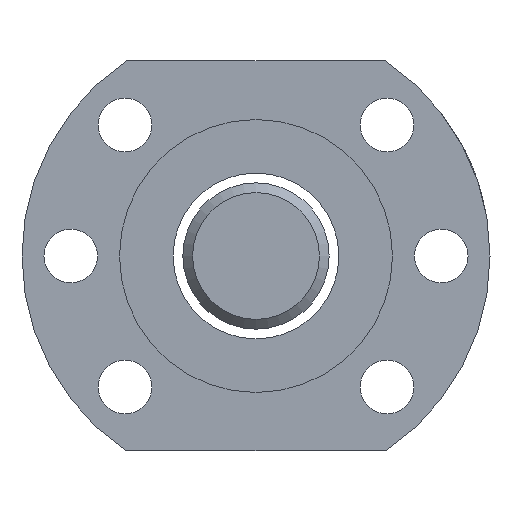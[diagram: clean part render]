
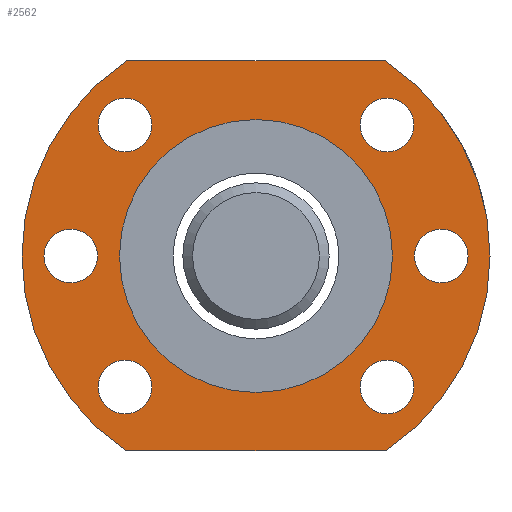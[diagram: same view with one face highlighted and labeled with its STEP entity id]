
A CAD part, left-side view. The second image highlights one B-rep face of the part: STEP entity #2562.
In plain terms, the highlighted planar face has unit normal (-1, 0, 0).
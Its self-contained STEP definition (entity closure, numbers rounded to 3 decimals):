
#82 = CARTESIAN_POINT ( 'NONE',  ( 0.351, -22.672, -20. ) ) ;
#187 = FACE_BOUND ( 'NONE', #550, .T. ) ;
#196 = VERTEX_POINT ( 'NONE', #82 ) ;
#199 = DIRECTION ( 'NONE',  ( 0., 0., 1. ) ) ;
#203 = CARTESIAN_POINT ( 'NONE',  ( 0.351, -22.503, -10.685 ) ) ;
#215 = FACE_BOUND ( 'NONE', #1554, .T. ) ;
#301 = DIRECTION ( 'NONE',  ( -1., 0., 0. ) ) ;
#313 = EDGE_CURVE ( 'NONE', #2195, #1804, #1992, .T. ) ;
#346 = EDGE_CURVE ( 'NONE', #196, #2195, #1480, .T. ) ;
#350 = EDGE_LOOP ( 'NONE', ( #1408 ) ) ;
#379 = EDGE_LOOP ( 'NONE', ( #1186 ) ) ;
#387 = AXIS2_PLACEMENT_3D ( 'NONE', #836, #1797, #1643 ) ;
#412 = CARTESIAN_POINT ( 'NONE',  ( 0.351, -49.373, -13.435 ) ) ;
#431 = AXIS2_PLACEMENT_3D ( 'NONE', #412, #1443, #1209 ) ;
#440 = DIRECTION ( 'NONE',  ( -1., 0., 0. ) ) ;
#464 = CARTESIAN_POINT ( 'NONE',  ( 0.351, -35.938, 0. ) ) ;
#474 = AXIS2_PLACEMENT_3D ( 'NONE', #1053, #478, #2065 ) ;
#478 = DIRECTION ( 'NONE',  ( -1., 0., 0. ) ) ;
#497 = CARTESIAN_POINT ( 'NONE',  ( 0.351, -49.205, 20. ) ) ;
#518 = DIRECTION ( 'NONE',  ( 0., 0., 1. ) ) ;
#525 = CARTESIAN_POINT ( 'NONE',  ( 0.351, -22.672, 20. ) ) ;
#550 = EDGE_LOOP ( 'NONE', ( #883 ) ) ;
#561 = VERTEX_POINT ( 'NONE', #525 ) ;
#566 = EDGE_LOOP ( 'NONE', ( #1972 ) ) ;
#606 = VECTOR ( 'NONE', #1632, 1000. ) ;
#608 = ORIENTED_EDGE ( 'NONE', *, *, #313, .T. ) ;
#614 = CARTESIAN_POINT ( 'NONE',  ( 0.351, -54.938, 2.75 ) ) ;
#623 = DIRECTION ( 'NONE',  ( 0., 0., 1. ) ) ;
#629 = ORIENTED_EDGE ( 'NONE', *, *, #346, .T. ) ;
#637 = VERTEX_POINT ( 'NONE', #1233 ) ;
#640 = DIRECTION ( 'NONE',  ( -1., 0., 0. ) ) ;
#643 = VECTOR ( 'NONE', #2325, 1000. ) ;
#717 = CARTESIAN_POINT ( 'NONE',  ( 0.351, -49.205, 20. ) ) ;
#755 = CARTESIAN_POINT ( 'NONE',  ( 0.351, -35.938, 0. ) ) ;
#758 = EDGE_CURVE ( 'NONE', #2019, #2019, #1103, .T. ) ;
#763 = ORIENTED_EDGE ( 'NONE', *, *, #2294, .T. ) ;
#765 = AXIS2_PLACEMENT_3D ( 'NONE', #2604, #2203, #199 ) ;
#786 = ORIENTED_EDGE ( 'NONE', *, *, #1302, .T. ) ;
#808 = FACE_BOUND ( 'NONE', #566, .T. ) ;
#826 = DIRECTION ( 'NONE',  ( 0., 0., -1. ) ) ;
#836 = CARTESIAN_POINT ( 'NONE',  ( 0.351, -54.938, 0. ) ) ;
#883 = ORIENTED_EDGE ( 'NONE', *, *, #2300, .F. ) ;
#927 = DIRECTION ( 'NONE',  ( 0., 0., 1. ) ) ;
#940 = AXIS2_PLACEMENT_3D ( 'NONE', #1441, #1427, #2228 ) ;
#977 = AXIS2_PLACEMENT_3D ( 'NONE', #755, #982, #2595 ) ;
#982 = DIRECTION ( 'NONE',  ( -1., 0., 0. ) ) ;
#1005 = PLANE ( 'NONE',  #2572 ) ;
#1019 = CARTESIAN_POINT ( 'NONE',  ( 0.351, -16.938, 2.75 ) ) ;
#1021 = CIRCLE ( 'NONE', #387, 2.75 ) ;
#1027 = AXIS2_PLACEMENT_3D ( 'NONE', #464, #640, #826 ) ;
#1053 = CARTESIAN_POINT ( 'NONE',  ( 0.351, -35.938, 0. ) ) ;
#1069 = EDGE_CURVE ( 'NONE', #637, #637, #1153, .T. ) ;
#1103 = CIRCLE ( 'NONE', #474, 14. ) ;
#1141 = CIRCLE ( 'NONE', #765, 2.75 ) ;
#1142 = EDGE_CURVE ( 'NONE', #2414, #2414, #2529, .T. ) ;
#1153 = CIRCLE ( 'NONE', #2154, 2.75 ) ;
#1161 = ORIENTED_EDGE ( 'NONE', *, *, #1142, .F. ) ;
#1186 = ORIENTED_EDGE ( 'NONE', *, *, #1069, .F. ) ;
#1209 = DIRECTION ( 'NONE',  ( 0., 0., 1. ) ) ;
#1220 = FACE_BOUND ( 'NONE', #1461, .T. ) ;
#1233 = CARTESIAN_POINT ( 'NONE',  ( 0.351, -22.503, 16.185 ) ) ;
#1302 = EDGE_CURVE ( 'NONE', #1822, #1822, #1141, .T. ) ;
#1313 = CARTESIAN_POINT ( 'NONE',  ( 0.351, -22.503, -13.435 ) ) ;
#1357 = ORIENTED_EDGE ( 'NONE', *, *, #2539, .T. ) ;
#1408 = ORIENTED_EDGE ( 'NONE', *, *, #2079, .T. ) ;
#1417 = VERTEX_POINT ( 'NONE', #203 ) ;
#1420 = EDGE_LOOP ( 'NONE', ( #786 ) ) ;
#1423 = EDGE_CURVE ( 'NONE', #561, #196, #2320, .T. ) ;
#1427 = DIRECTION ( 'NONE',  ( -1., 0., 0. ) ) ;
#1429 = FACE_BOUND ( 'NONE', #350, .T. ) ;
#1441 = CARTESIAN_POINT ( 'NONE',  ( 0.351, -16.938, 0. ) ) ;
#1443 = DIRECTION ( 'NONE',  ( 1., 0., 0. ) ) ;
#1461 = EDGE_LOOP ( 'NONE', ( #1161 ) ) ;
#1480 = LINE ( 'NONE', #2062, #606 ) ;
#1522 = LINE ( 'NONE', #717, #643 ) ;
#1554 = EDGE_LOOP ( 'NONE', ( #1357 ) ) ;
#1600 = FACE_BOUND ( 'NONE', #1420, .T. ) ;
#1629 = FACE_BOUND ( 'NONE', #379, .T. ) ;
#1632 = DIRECTION ( 'NONE',  ( 0., -1., 0. ) ) ;
#1643 = DIRECTION ( 'NONE',  ( 0., 0., 1. ) ) ;
#1692 = CIRCLE ( 'NONE', #431, 2.75 ) ;
#1736 = CIRCLE ( 'NONE', #2196, 2.75 ) ;
#1797 = DIRECTION ( 'NONE',  ( 1., 0., 0. ) ) ;
#1804 = VERTEX_POINT ( 'NONE', #497 ) ;
#1822 = VERTEX_POINT ( 'NONE', #2402 ) ;
#1824 = VERTEX_POINT ( 'NONE', #2219 ) ;
#1852 = CARTESIAN_POINT ( 'NONE',  ( 0.351, -49.205, -20. ) ) ;
#1929 = DIRECTION ( 'NONE',  ( -1., 0., 0. ) ) ;
#1972 = ORIENTED_EDGE ( 'NONE', *, *, #758, .F. ) ;
#1992 = CIRCLE ( 'NONE', #1027, 24. ) ;
#2000 = EDGE_LOOP ( 'NONE', ( #2264, #629, #608, #763 ) ) ;
#2007 = FACE_OUTER_BOUND ( 'NONE', #2000, .T. ) ;
#2019 = VERTEX_POINT ( 'NONE', #2217 ) ;
#2062 = CARTESIAN_POINT ( 'NONE',  ( 0.351, -22.672, -20. ) ) ;
#2065 = DIRECTION ( 'NONE',  ( 0., 0., -1. ) ) ;
#2079 = EDGE_CURVE ( 'NONE', #2232, #2232, #1021, .T. ) ;
#2154 = AXIS2_PLACEMENT_3D ( 'NONE', #2501, #1929, #927 ) ;
#2195 = VERTEX_POINT ( 'NONE', #1852 ) ;
#2196 = AXIS2_PLACEMENT_3D ( 'NONE', #1313, #301, #518 ) ;
#2203 = DIRECTION ( 'NONE',  ( 1., 0., 0. ) ) ;
#2217 = CARTESIAN_POINT ( 'NONE',  ( 0.351, -35.938, -14. ) ) ;
#2219 = CARTESIAN_POINT ( 'NONE',  ( 0.351, -49.373, -10.685 ) ) ;
#2228 = DIRECTION ( 'NONE',  ( 0., 0., 1. ) ) ;
#2232 = VERTEX_POINT ( 'NONE', #614 ) ;
#2264 = ORIENTED_EDGE ( 'NONE', *, *, #1423, .T. ) ;
#2294 = EDGE_CURVE ( 'NONE', #1804, #561, #1522, .T. ) ;
#2300 = EDGE_CURVE ( 'NONE', #1417, #1417, #1736, .T. ) ;
#2320 = CIRCLE ( 'NONE', #977, 24. ) ;
#2325 = DIRECTION ( 'NONE',  ( 0., 1., 0. ) ) ;
#2402 = CARTESIAN_POINT ( 'NONE',  ( 0.351, -49.373, 16.185 ) ) ;
#2414 = VERTEX_POINT ( 'NONE', #1019 ) ;
#2427 = CARTESIAN_POINT ( 'NONE',  ( 0.351, -35.938, 0. ) ) ;
#2501 = CARTESIAN_POINT ( 'NONE',  ( 0.351, -22.503, 13.435 ) ) ;
#2529 = CIRCLE ( 'NONE', #940, 2.75 ) ;
#2539 = EDGE_CURVE ( 'NONE', #1824, #1824, #1692, .T. ) ;
#2562 = ADVANCED_FACE ( 'NONE', ( #1429, #808, #2007, #1220, #1629, #187, #215, #1600 ), #1005, .T. ) ;
#2572 = AXIS2_PLACEMENT_3D ( 'NONE', #2427, #440, #623 ) ;
#2595 = DIRECTION ( 'NONE',  ( 0., 0., -1. ) ) ;
#2604 = CARTESIAN_POINT ( 'NONE',  ( 0.351, -49.373, 13.435 ) ) ;
